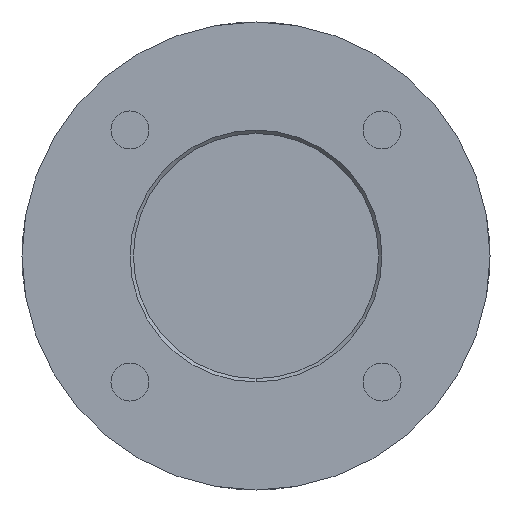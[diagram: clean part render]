
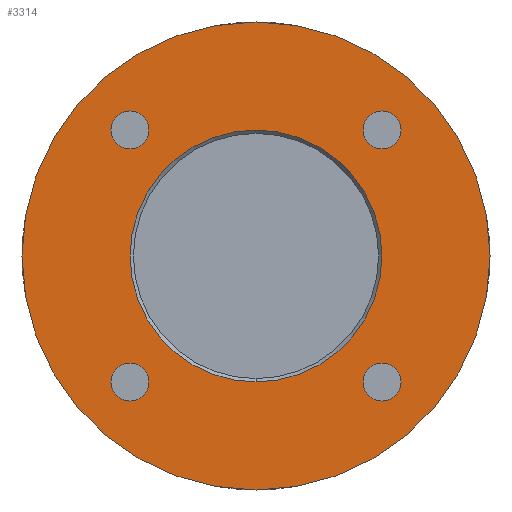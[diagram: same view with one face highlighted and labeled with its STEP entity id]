
A CAD part, left-side view. The second image highlights one B-rep face of the part: STEP entity #3314.
In plain terms, the highlighted planar face has unit normal (-1, 0, 0).
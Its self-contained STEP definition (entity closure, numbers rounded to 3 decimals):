
#199=CARTESIAN_POINT('',(0.,0.,0.));
#200=DIRECTION('',(1.,0.,0.));
#201=DIRECTION('',(0.,0.,-1.));
#202=AXIS2_PLACEMENT_3D('',#199,#200,#201);
#204=CARTESIAN_POINT('',(0.,0.,0.));
#205=DIRECTION('',(1.,0.,0.));
#206=DIRECTION('',(0.,0.,1.));
#207=AXIS2_PLACEMENT_3D('',#204,#205,#206);
#209=CARTESIAN_POINT('',(0.,11.314,11.314));
#210=DIRECTION('',(1.,0.,0.));
#211=DIRECTION('',(0.,1.,0.));
#212=AXIS2_PLACEMENT_3D('',#209,#210,#211);
#214=CARTESIAN_POINT('',(0.,11.314,11.314));
#215=DIRECTION('',(1.,0.,0.));
#216=DIRECTION('',(0.,-1.,0.));
#217=AXIS2_PLACEMENT_3D('',#214,#215,#216);
#219=CARTESIAN_POINT('',(0.,-11.314,11.314));
#220=DIRECTION('',(1.,0.,0.));
#221=DIRECTION('',(0.,1.,0.));
#222=AXIS2_PLACEMENT_3D('',#219,#220,#221);
#224=CARTESIAN_POINT('',(0.,-11.314,11.314));
#225=DIRECTION('',(1.,0.,0.));
#226=DIRECTION('',(0.,-1.,0.));
#227=AXIS2_PLACEMENT_3D('',#224,#225,#226);
#229=CARTESIAN_POINT('',(0.,-11.314,-11.314));
#230=DIRECTION('',(1.,0.,0.));
#231=DIRECTION('',(0.,1.,0.));
#232=AXIS2_PLACEMENT_3D('',#229,#230,#231);
#234=CARTESIAN_POINT('',(0.,-11.314,-11.314));
#235=DIRECTION('',(1.,0.,0.));
#236=DIRECTION('',(0.,-1.,0.));
#237=AXIS2_PLACEMENT_3D('',#234,#235,#236);
#239=CARTESIAN_POINT('',(0.,11.314,-11.314));
#240=DIRECTION('',(1.,0.,0.));
#241=DIRECTION('',(0.,1.,0.));
#242=AXIS2_PLACEMENT_3D('',#239,#240,#241);
#244=CARTESIAN_POINT('',(0.,11.314,-11.314));
#245=DIRECTION('',(1.,0.,0.));
#246=DIRECTION('',(0.,-1.,0.));
#247=AXIS2_PLACEMENT_3D('',#244,#245,#246);
#2499=CARTESIAN_POINT('',(0.,0.,0.));
#2500=DIRECTION('',(-1.,0.,0.));
#2501=DIRECTION('',(0.,0.,1.));
#2502=AXIS2_PLACEMENT_3D('',#2499,#2500,#2501);
#2517=CARTESIAN_POINT('',(0.,0.,0.));
#2518=DIRECTION('',(-1.,0.,0.));
#2519=DIRECTION('',(0.,0.,-1.));
#2520=AXIS2_PLACEMENT_3D('',#2517,#2518,#2519);
#2617=CARTESIAN_POINT('',(0.,0.,-21.));
#2618=CARTESIAN_POINT('',(0.,0.,21.));
#2619=VERTEX_POINT('',#2617);
#2620=VERTEX_POINT('',#2618);
#2633=CARTESIAN_POINT('',(0.,13.014,11.314));
#2634=CARTESIAN_POINT('',(0.,9.614,11.314));
#2635=VERTEX_POINT('',#2633);
#2636=VERTEX_POINT('',#2634);
#2641=CARTESIAN_POINT('',(0.,-9.614,11.314));
#2642=CARTESIAN_POINT('',(0.,-13.014,11.314));
#2643=VERTEX_POINT('',#2641);
#2644=VERTEX_POINT('',#2642);
#2649=CARTESIAN_POINT('',(0.,-9.614,-11.314));
#2650=CARTESIAN_POINT('',(0.,-13.014,-11.314));
#2651=VERTEX_POINT('',#2649);
#2652=VERTEX_POINT('',#2650);
#2657=CARTESIAN_POINT('',(0.,13.014,-11.314));
#2658=CARTESIAN_POINT('',(0.,9.614,-11.314));
#2659=VERTEX_POINT('',#2657);
#2660=VERTEX_POINT('',#2658);
#3169=CARTESIAN_POINT('',(0.,0.,-11.3));
#3170=CARTESIAN_POINT('',(0.,0.,11.3));
#3171=VERTEX_POINT('',#3169);
#3172=VERTEX_POINT('',#3170);
#3273=CARTESIAN_POINT('',(0.,0.,0.));
#3274=DIRECTION('',(1.,0.,0.));
#3275=DIRECTION('',(0.,0.,-1.));
#3276=AXIS2_PLACEMENT_3D('',#3273,#3274,#3275);
#3277=PLANE('',#3276);
#3279=ORIENTED_EDGE('',*,*,#3278,.T.);
#3281=ORIENTED_EDGE('',*,*,#3280,.T.);
#3282=EDGE_LOOP('',(#3279,#3281));
#3283=FACE_OUTER_BOUND('',#3282,.F.);
#3285=ORIENTED_EDGE('',*,*,#3284,.T.);
#3287=ORIENTED_EDGE('',*,*,#3286,.T.);
#3288=EDGE_LOOP('',(#3285,#3287));
#3289=FACE_BOUND('',#3288,.F.);
#3291=ORIENTED_EDGE('',*,*,#3290,.F.);
#3293=ORIENTED_EDGE('',*,*,#3292,.F.);
#3294=EDGE_LOOP('',(#3291,#3293));
#3295=FACE_BOUND('',#3294,.F.);
#3297=ORIENTED_EDGE('',*,*,#3296,.F.);
#3299=ORIENTED_EDGE('',*,*,#3298,.F.);
#3300=EDGE_LOOP('',(#3297,#3299));
#3301=FACE_BOUND('',#3300,.F.);
#3303=ORIENTED_EDGE('',*,*,#3302,.F.);
#3305=ORIENTED_EDGE('',*,*,#3304,.F.);
#3306=EDGE_LOOP('',(#3303,#3305));
#3307=FACE_BOUND('',#3306,.F.);
#3309=ORIENTED_EDGE('',*,*,#3308,.F.);
#3311=ORIENTED_EDGE('',*,*,#3310,.F.);
#3312=EDGE_LOOP('',(#3309,#3311));
#3313=FACE_BOUND('',#3312,.F.);
#3314=ADVANCED_FACE('',(#3283,#3289,#3295,#3301,#3307,#3313),#3277,.F.);
#203=CIRCLE('',#202,21.);
#208=CIRCLE('',#207,21.);
#213=CIRCLE('',#212,1.7);
#218=CIRCLE('',#217,1.7);
#223=CIRCLE('',#222,1.7);
#228=CIRCLE('',#227,1.7);
#233=CIRCLE('',#232,1.7);
#238=CIRCLE('',#237,1.7);
#243=CIRCLE('',#242,1.7);
#248=CIRCLE('',#247,1.7);
#2503=CIRCLE('',#2502,11.3);
#2521=CIRCLE('',#2520,11.3);
#3278=EDGE_CURVE('',#2619,#2620,#203,.T.);
#3280=EDGE_CURVE('',#2620,#2619,#208,.T.);
#3284=EDGE_CURVE('',#3172,#3171,#2503,.T.);
#3286=EDGE_CURVE('',#3171,#3172,#2521,.T.);
#3290=EDGE_CURVE('',#2635,#2636,#213,.T.);
#3292=EDGE_CURVE('',#2636,#2635,#218,.T.);
#3296=EDGE_CURVE('',#2643,#2644,#223,.T.);
#3298=EDGE_CURVE('',#2644,#2643,#228,.T.);
#3302=EDGE_CURVE('',#2651,#2652,#233,.T.);
#3304=EDGE_CURVE('',#2652,#2651,#238,.T.);
#3308=EDGE_CURVE('',#2659,#2660,#243,.T.);
#3310=EDGE_CURVE('',#2660,#2659,#248,.T.);
